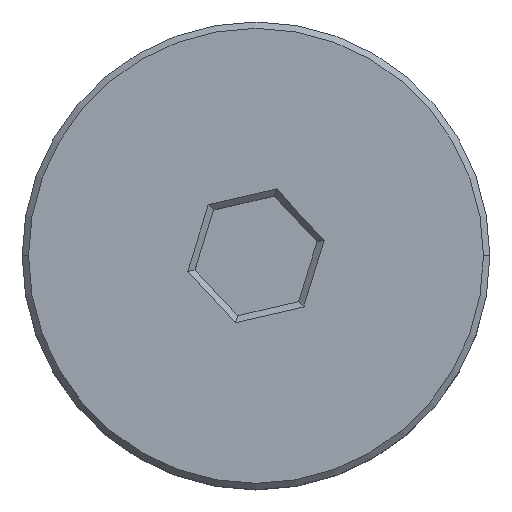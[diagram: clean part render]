
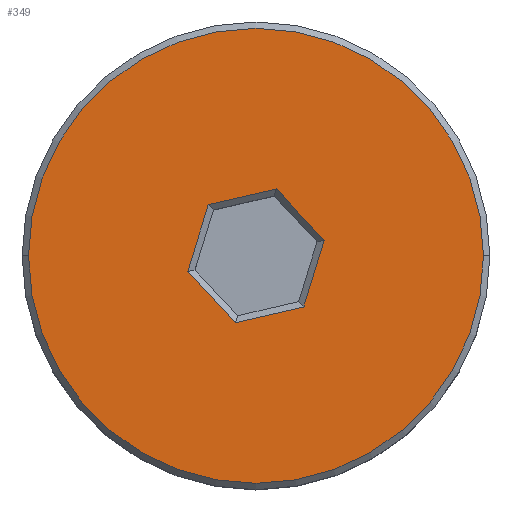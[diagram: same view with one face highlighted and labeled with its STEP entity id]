
A CAD part, top view. The second image highlights one B-rep face of the part: STEP entity #349.
In plain terms, the highlighted planar face has unit normal (0, 0, 1).
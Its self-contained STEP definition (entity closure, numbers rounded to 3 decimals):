
#2 = DIRECTION ( 'NONE',  ( 0., 0., 1. ) ) ;
#25 = DIRECTION ( 'NONE',  ( 1., 0., 0. ) ) ;
#37 = DIRECTION ( 'NONE',  ( -0.974, -0.225, 0. ) ) ;
#41 = CIRCLE ( 'NONE', #395, 10.7 ) ;
#42 = AXIS2_PLACEMENT_3D ( 'NONE', #585, #2, #632 ) ;
#45 = CARTESIAN_POINT ( 'NONE',  ( -0.795, -3.108, 4.25 ) ) ;
#63 = EDGE_CURVE ( 'NONE', #301, #682, #485, .T. ) ;
#97 = CIRCLE ( 'NONE', #42, 10.7 ) ;
#100 = CARTESIAN_POINT ( 'NONE',  ( -3.207, -0.739, 4.25 ) ) ;
#106 = FACE_BOUND ( 'NONE', #114, .T. ) ;
#111 = DIRECTION ( 'NONE',  ( 0.293, 0.956, 0. ) ) ;
#114 = EDGE_LOOP ( 'NONE', ( #609, #309, #265, #685, #560, #400 ) ) ;
#115 = EDGE_CURVE ( 'NONE', #128, #408, #41, .T. ) ;
#128 = VERTEX_POINT ( 'NONE', #435 ) ;
#129 = EDGE_CURVE ( 'NONE', #682, #361, #233, .T. ) ;
#140 = VECTOR ( 'NONE', #171, 1000. ) ;
#155 = CARTESIAN_POINT ( 'NONE',  ( 3.207, 0.739, 4.25 ) ) ;
#158 = LINE ( 'NONE', #429, #227 ) ;
#168 = VERTEX_POINT ( 'NONE', #439 ) ;
#171 = DIRECTION ( 'NONE',  ( -0.293, -0.956, 0. ) ) ;
#182 = CARTESIAN_POINT ( 'NONE',  ( -3.089, -0.866, 4.25 ) ) ;
#190 = LINE ( 'NONE', #45, #568 ) ;
#222 = PLANE ( 'NONE',  #407 ) ;
#225 = DIRECTION ( 'NONE',  ( 0., 0., 1. ) ) ;
#227 = VECTOR ( 'NONE', #111, 1000. ) ;
#233 = LINE ( 'NONE', #332, #140 ) ;
#245 = EDGE_LOOP ( 'NONE', ( #523, #557 ) ) ;
#258 = CARTESIAN_POINT ( 'NONE',  ( 0., 0., 4.25 ) ) ;
#265 = ORIENTED_EDGE ( 'NONE', *, *, #613, .T. ) ;
#266 = CARTESIAN_POINT ( 'NONE',  ( 2.243, -2.408, 4.25 ) ) ;
#269 = CARTESIAN_POINT ( 'NONE',  ( -10.7, 0., 4.25 ) ) ;
#272 = LINE ( 'NONE', #481, #438 ) ;
#274 = VERTEX_POINT ( 'NONE', #412 ) ;
#276 = DIRECTION ( 'NONE',  ( -0.682, 0.732, 0. ) ) ;
#301 = VERTEX_POINT ( 'NONE', #415 ) ;
#309 = ORIENTED_EDGE ( 'NONE', *, *, #129, .T. ) ;
#312 = DIRECTION ( 'NONE',  ( 1., 0., 0. ) ) ;
#317 = FACE_OUTER_BOUND ( 'NONE', #245, .T. ) ;
#328 = EDGE_CURVE ( 'NONE', #473, #168, #158, .T. ) ;
#332 = CARTESIAN_POINT ( 'NONE',  ( 2.294, -2.242, 4.25 ) ) ;
#349 = ADVANCED_FACE ( 'NONE', ( #317, #106 ), #222, .T. ) ;
#361 = VERTEX_POINT ( 'NONE', #266 ) ;
#395 = AXIS2_PLACEMENT_3D ( 'NONE', #605, #225, #25 ) ;
#400 = ORIENTED_EDGE ( 'NONE', *, *, #426, .T. ) ;
#407 = AXIS2_PLACEMENT_3D ( 'NONE', #258, #477, #312 ) ;
#408 = VERTEX_POINT ( 'NONE', #269 ) ;
#412 = CARTESIAN_POINT ( 'NONE',  ( -0.963, -3.147, 4.25 ) ) ;
#414 = EDGE_CURVE ( 'NONE', #408, #128, #97, .T. ) ;
#415 = CARTESIAN_POINT ( 'NONE',  ( 0.963, 3.147, 4.25 ) ) ;
#426 = EDGE_CURVE ( 'NONE', #168, #301, #272, .T. ) ;
#429 = CARTESIAN_POINT ( 'NONE',  ( -2.294, 2.242, 4.25 ) ) ;
#431 = DIRECTION ( 'NONE',  ( 0.974, 0.225, 0. ) ) ;
#435 = CARTESIAN_POINT ( 'NONE',  ( 10.7, 0., 4.25 ) ) ;
#438 = VECTOR ( 'NONE', #431, 1000. ) ;
#439 = CARTESIAN_POINT ( 'NONE',  ( -2.243, 2.408, 4.25 ) ) ;
#444 = DIRECTION ( 'NONE',  ( 0.682, -0.732, 0. ) ) ;
#471 = VECTOR ( 'NONE', #276, 1000. ) ;
#473 = VERTEX_POINT ( 'NONE', #100 ) ;
#477 = DIRECTION ( 'NONE',  ( 0., 0., 1. ) ) ;
#481 = CARTESIAN_POINT ( 'NONE',  ( 0.795, 3.108, 4.25 ) ) ;
#485 = LINE ( 'NONE', #597, #602 ) ;
#523 = ORIENTED_EDGE ( 'NONE', *, *, #414, .T. ) ;
#532 = EDGE_CURVE ( 'NONE', #274, #473, #658, .T. ) ;
#557 = ORIENTED_EDGE ( 'NONE', *, *, #115, .T. ) ;
#560 = ORIENTED_EDGE ( 'NONE', *, *, #328, .T. ) ;
#568 = VECTOR ( 'NONE', #37, 1000. ) ;
#585 = CARTESIAN_POINT ( 'NONE',  ( 0., 0., 4.25 ) ) ;
#597 = CARTESIAN_POINT ( 'NONE',  ( 3.089, 0.866, 4.25 ) ) ;
#602 = VECTOR ( 'NONE', #444, 1000. ) ;
#605 = CARTESIAN_POINT ( 'NONE',  ( 0., 0., 4.25 ) ) ;
#609 = ORIENTED_EDGE ( 'NONE', *, *, #63, .T. ) ;
#613 = EDGE_CURVE ( 'NONE', #361, #274, #190, .T. ) ;
#632 = DIRECTION ( 'NONE',  ( 1., 0., 0. ) ) ;
#658 = LINE ( 'NONE', #182, #471 ) ;
#682 = VERTEX_POINT ( 'NONE', #155 ) ;
#685 = ORIENTED_EDGE ( 'NONE', *, *, #532, .T. ) ;
